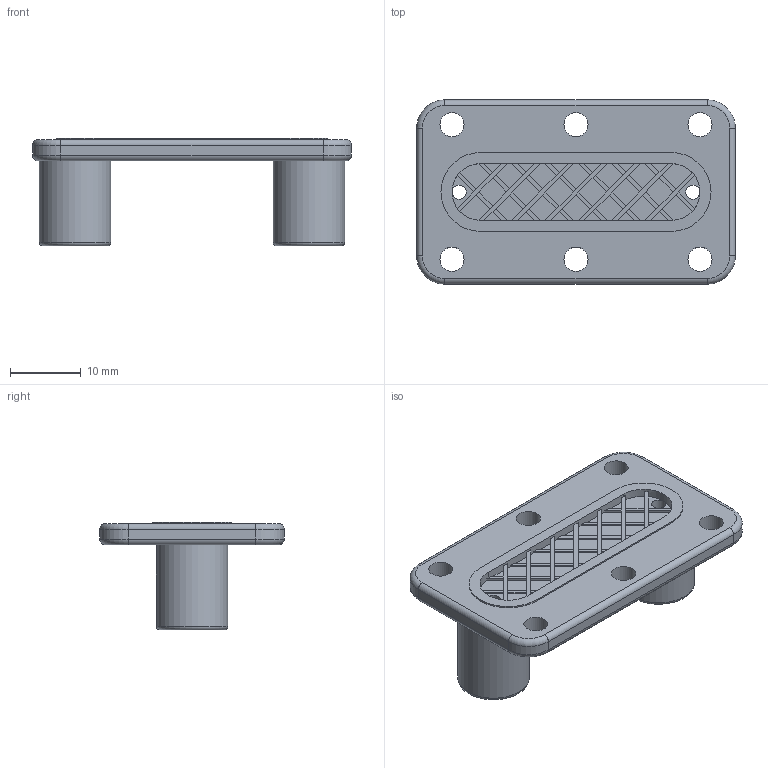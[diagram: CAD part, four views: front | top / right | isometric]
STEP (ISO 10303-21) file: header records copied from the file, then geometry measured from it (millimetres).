
FILE_DESCRIPTION(/* description */ (''),/* implementation_level */ '2;1');
FILE_NAME(/* name */ 'V:\Flow\Inventor\PEEK\Membran Separator\Membran Separator_2 - PEEK.stp',/* time_stamp */ '2019-12-20T10:13:09+01:00',/* author */ ('JN'),/* organization */ (''),/* preprocessor_version */ 'ST-DEVELOPER v17',/* originating_system */ 'Autodesk Inventor 2018',/* authorisation */ '');
FILE_SCHEMA (('AUTOMOTIVE_DESIGN { 1 0 10303 214 3 1 1 }'));
Length unit declared in the file: millimetre
Products named in the file (3): Baugruppe2; Membran Separator; Luer - 10-32  Adapter
Assembly tree (3 placements, depth 2):
  Baugruppe2
    Membran Separator
    Luer - 10-32  Adapter  x2
Bounding box: 45 x 26 x 15.2 mm (x, y, z)
Volume: 4668 mm3; surface area: 4289.9 mm2
Topology: 3 solids, 3 shells, 118 faces, 326 edges, 214 vertices
Faces by surface type: plane 76, cylinder 30, torus 10, cone 2
Full cylindrical faces by diameter (mm): 2 x2, 2.8 x2, 3.4 x6, 4.4 x2, 10.08 x2
Entity records: 3729 total; most frequent: DIRECTION 638, CARTESIAN_POINT 627, ORIENTED_EDGE 618, EDGE_CURVE 309, AXIS2_PLACEMENT_3D 213, LINE 212, VECTOR 212, VERTEX_POINT 202
